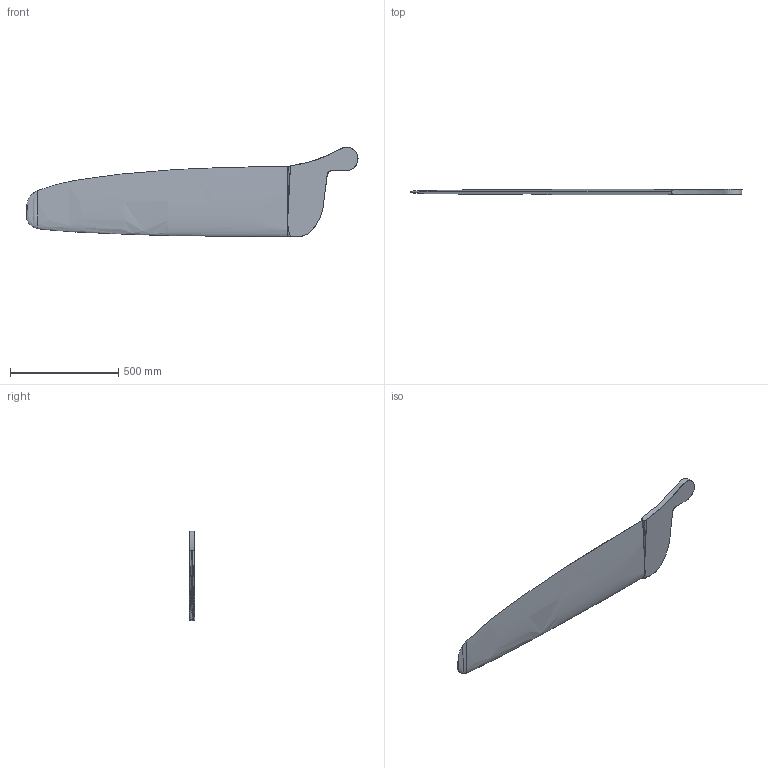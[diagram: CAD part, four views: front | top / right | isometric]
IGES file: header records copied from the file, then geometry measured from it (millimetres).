
Global section: file name: H:\JavelinNED576\CB2023\S9027-23.igs; native system: Rhinoceros ( May 12 2010 ); preprocessor: Trout Lake IGES 012 May 12 2010; date: 231227.183302; units: millimetre
Bounding box: 1531.73 x 26.13 x 413.11 mm (x, y, z)
Surface area: 843294.9 mm2 (no closed solid volume)
Topology: 0 solids, 0 shells, 21 faces, 230 edges, 233 vertices
Faces by surface type: bspline 21
